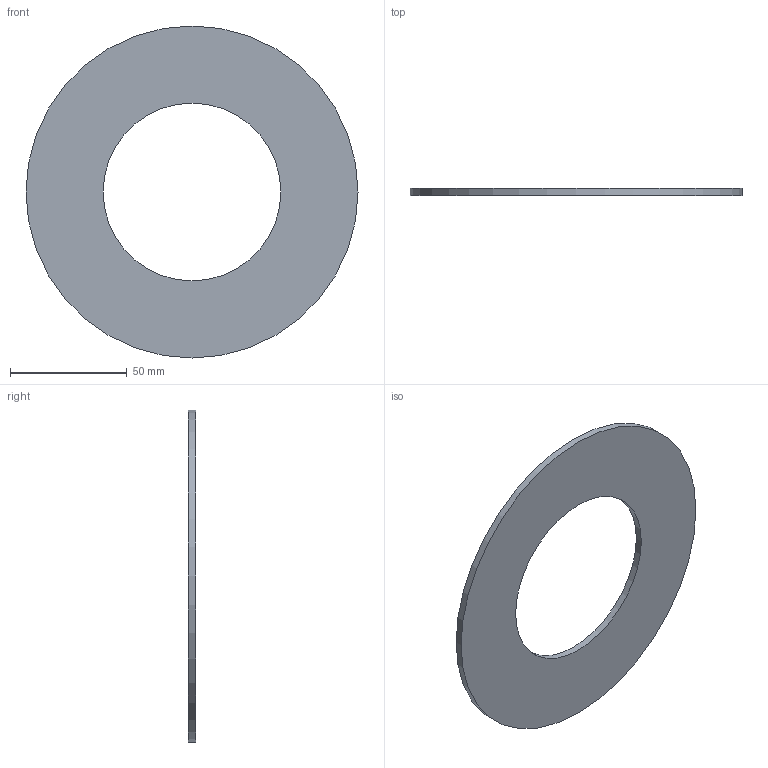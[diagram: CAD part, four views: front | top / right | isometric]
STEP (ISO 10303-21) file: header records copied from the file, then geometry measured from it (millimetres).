
FILE_DESCRIPTION(/* description */ ('Unknown'),/* implementation_level */ '2;1');
FILE_NAME(/* name */ 'GUA.090C',/* time_stamp */ '2021-04-01T11:30:19+02:00',/* author */ ('Unknown'),/* organization */ ('Unknown'),/* preprocessor_version */ 'ST-DEVELOPER v16.7',/* originating_system */ 'Solid Edge',/* authorisation */ 'Unknown');
FILE_SCHEMA (('AUTOMOTIVE_DESIGN {1 0 10303 214 3 1 1}'));
Length unit declared in the file: millimetre
Products named in the file (1): GUA.090C
Bounding box: 142 x 3 x 142 mm (x, y, z)
Volume: 33900.9 mm3; surface area: 24655.2 mm2
Topology: 1 solids, 1 shells, 4 faces, 6 edges, 4 vertices
Faces by surface type: cylinder 2, plane 2
Full cylindrical faces by diameter (mm): 76 x1, 142 x1
Entity records: 118 total; most frequent: DIRECTION 18, CARTESIAN_POINT 13, AXIS2_PLACEMENT_3D 9, ORIENTED_EDGE 8, EDGE_LOOP 8, FACE_BOUND 8, EDGE_CURVE 4, VERTEX_POINT 4
